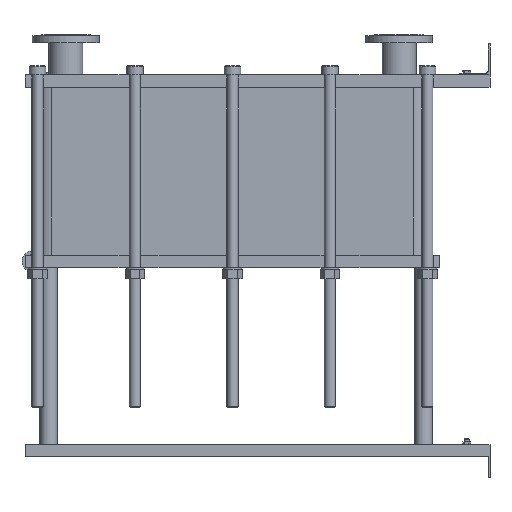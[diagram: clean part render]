
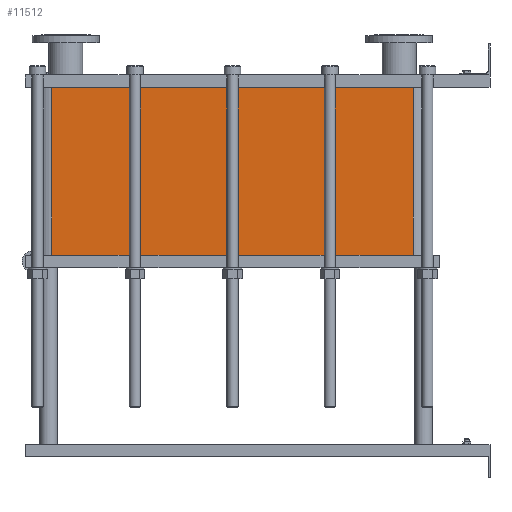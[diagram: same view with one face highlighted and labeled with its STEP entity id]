
A CAD part, left-side view. The second image highlights one B-rep face of the part: STEP entity #11512.
In plain terms, the highlighted planar face has unit normal (-1, 0, 0).
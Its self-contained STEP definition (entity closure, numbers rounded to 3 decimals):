
#1129=LINE('',#23232,#2102);
#1130=LINE('',#23236,#2103);
#1131=LINE('',#23238,#2104);
#1132=LINE('',#23239,#2105);
#2102=VECTOR('',#15887,10.);
#2103=VECTOR('',#15892,10.);
#2104=VECTOR('',#15893,10.);
#2105=VECTOR('',#15894,10.);
#3267=FACE_OUTER_BOUND('',#4093,.T.);
#4093=EDGE_LOOP('',(#10103,#10104,#10105,#10106));
#5642=VERTEX_POINT('',#23229);
#5643=VERTEX_POINT('',#23231);
#5644=VERTEX_POINT('',#23235);
#5645=VERTEX_POINT('',#23237);
#7159=EDGE_CURVE('',#5643,#5642,#1129,.T.);
#7161=EDGE_CURVE('',#5642,#5644,#1130,.T.);
#7162=EDGE_CURVE('',#5645,#5644,#1131,.T.);
#7163=EDGE_CURVE('',#5645,#5643,#1132,.T.);
#10103=ORIENTED_EDGE('',*,*,#7161,.T.);
#10104=ORIENTED_EDGE('',*,*,#7162,.F.);
#10105=ORIENTED_EDGE('',*,*,#7163,.T.);
#10106=ORIENTED_EDGE('',*,*,#7159,.T.);
#10857=PLANE('',#12751);
#11512=ADVANCED_FACE('',(#3267),#10857,.T.);
#12751=AXIS2_PLACEMENT_3D('',#23234,#15890,#15891);
#15887=DIRECTION('',(0.,0.,-1.));
#15890=DIRECTION('center_axis',(-1.,0.,0.));
#15891=DIRECTION('ref_axis',(0.,1.,0.));
#15892=DIRECTION('',(0.,-1.,0.));
#15893=DIRECTION('',(0.,0.,-1.));
#15894=DIRECTION('',(0.,1.,0.));
#23229=CARTESIAN_POINT('',(-200.,1414.,-541.65));
#23231=CARTESIAN_POINT('',(-200.,1414.,0.));
#23232=CARTESIAN_POINT('',(-200.,1414.,0.));
#23234=CARTESIAN_POINT('Origin',(-200.,248.,0.));
#23235=CARTESIAN_POINT('',(-200.,248.,-541.65));
#23236=CARTESIAN_POINT('',(-200.,539.5,-541.65));
#23237=CARTESIAN_POINT('',(-200.,248.,0.));
#23238=CARTESIAN_POINT('',(-200.,248.,0.));
#23239=CARTESIAN_POINT('',(-200.,248.,0.));
